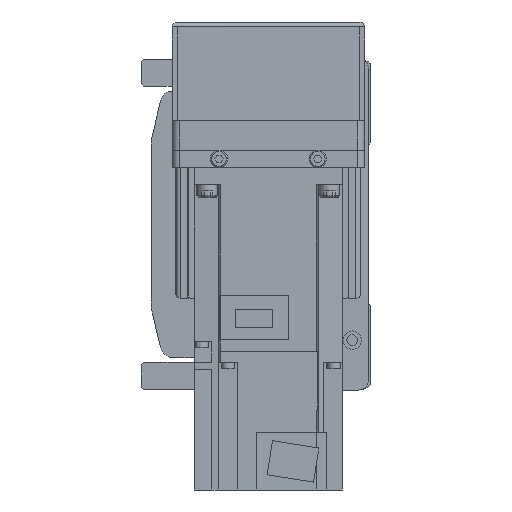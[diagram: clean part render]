
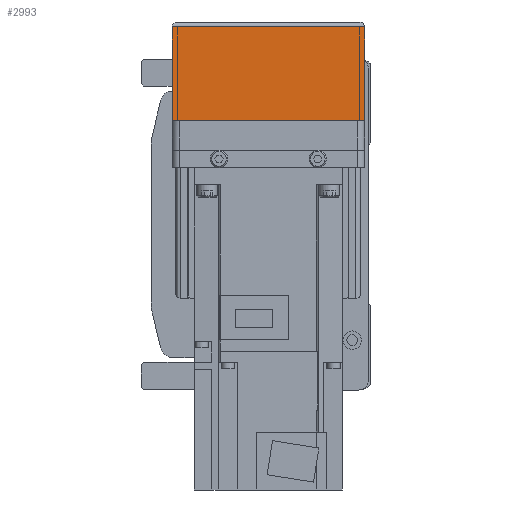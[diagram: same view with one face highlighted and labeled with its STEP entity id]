
A CAD part, left-side view. The second image highlights one B-rep face of the part: STEP entity #2993.
In plain terms, the highlighted planar face has unit normal (-1, 0, 0).
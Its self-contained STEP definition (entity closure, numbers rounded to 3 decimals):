
#2993 = ADVANCED_FACE( '', ( #6235 ), #6236, .F. );
#6235 = FACE_OUTER_BOUND( '', #9553, .T. );
#6236 = PLANE( '', #9554 );
#9553 = EDGE_LOOP( '', ( #18020, #18021, #18022, #18023 ) );
#9554 = AXIS2_PLACEMENT_3D( '', #18024, #18025, #18026 );
#18020 = ORIENTED_EDGE( '', *, *, #21725, .F. );
#18021 = ORIENTED_EDGE( '', *, *, #22203, .F. );
#18022 = ORIENTED_EDGE( '', *, *, #22204, .T. );
#18023 = ORIENTED_EDGE( '', *, *, #21835, .F. );
#18024 = CARTESIAN_POINT( '', ( -158., 36., 7. ) );
#18025 = DIRECTION( '', ( 1., 0., 0. ) );
#18026 = DIRECTION( '', ( 0., 0., -1. ) );
#21725 = EDGE_CURVE( '', #26837, #23412, #26839, .T. );
#21835 = EDGE_CURVE( '', #23412, #25705, #26971, .T. );
#22203 = EDGE_CURVE( '', #26904, #26837, #27386, .T. );
#22204 = EDGE_CURVE( '', #26904, #25705, #27387, .T. );
#23412 = VERTEX_POINT( '', #29157 );
#25705 = VERTEX_POINT( '', #32578 );
#26837 = VERTEX_POINT( '', #34308 );
#26839 = LINE( '', #34311, #34312 );
#26904 = VERTEX_POINT( '', #34397 );
#26971 = LINE( '', #34491, #34492 );
#27386 = LINE( '', #35023, #35024 );
#27387 = LINE( '', #35025, #35026 );
#29157 = CARTESIAN_POINT( '', ( -158., -39., -12.1 ) );
#32578 = CARTESIAN_POINT( '', ( -158., -39., -50. ) );
#34308 = CARTESIAN_POINT( '', ( -158., 39., -12.1 ) );
#34311 = CARTESIAN_POINT( '', ( -158., 50., -12.1 ) );
#34312 = VECTOR( '', #38707, 1000. );
#34397 = CARTESIAN_POINT( '', ( -158., 39., -50. ) );
#34491 = CARTESIAN_POINT( '', ( -158., -39., -12.1 ) );
#34492 = VECTOR( '', #38815, 1000. );
#35023 = CARTESIAN_POINT( '', ( -158., 39., -50. ) );
#35024 = VECTOR( '', #39109, 1000. );
#35025 = CARTESIAN_POINT( '', ( -158., 40., -50. ) );
#35026 = VECTOR( '', #39110, 1000. );
#38707 = DIRECTION( '', ( 0., -1., 0. ) );
#38815 = DIRECTION( '', ( 0., 0., -1. ) );
#39109 = DIRECTION( '', ( 0., 0., 1. ) );
#39110 = DIRECTION( '', ( 0., -1., 0. ) );
